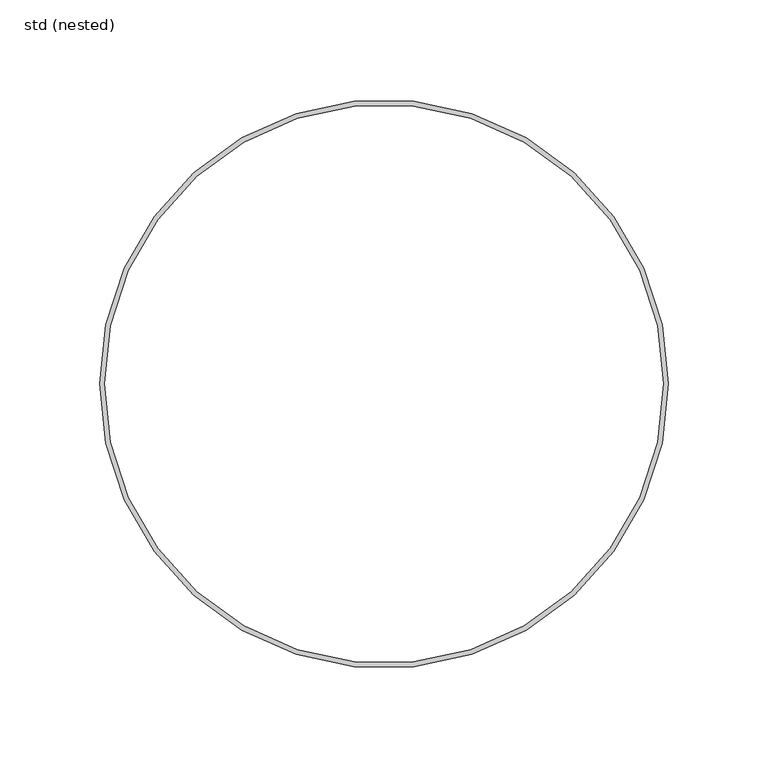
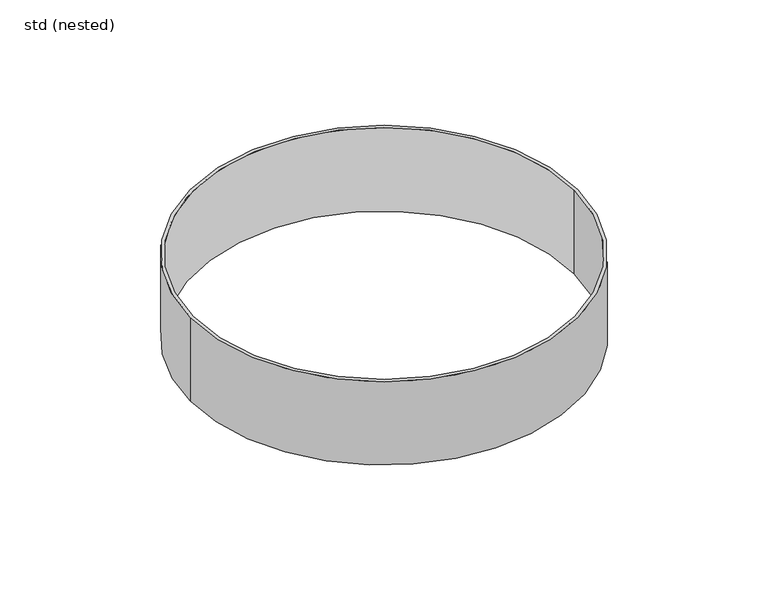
"""IFC4 building model written with IfcOpenShell, lengths in millimetres: sanitary terminal geometry, ZZZ_do not use_PF_ST_WPB_levelling height for Passavant Jet_ACO : std (nested)."""

from ifc_helpers import new_model, si_unit, point, origin, origin_with_axes, origin_2d, place, context, project, spatial, circle_curve, trimmed, segment, composite_curve, outline, extrude, source, transform, mapped, element, save


def std_nested_134ac697(model_context):
    return source(origin(), model_context, "Body", "SweptSolid", [
        extrude(outline(composite_curve([segment(trimmed(circle_curve(origin_2d(), 142.5), [point((-142.5, 0.0))], [point((142.5, 0.0))], False, "CARTESIAN"), True, "CONTINUOUS"), segment(trimmed(circle_curve(origin_2d(), 142.5), [point((142.5, 0.0))], [point((-142.5, 0.0))], False, "CARTESIAN"), True, "CONTINUOUS")], self_intersect=False), holes=[composite_curve([segment(trimmed(circle_curve(origin_2d(), 140.0), [point((-140.0, 0.0))], [point((140.0, 0.0))], True, "CARTESIAN"), True, "CONTINUOUS"), segment(trimmed(circle_curve(origin_2d(), 140.0), [point((140.0, 0.0))], [point((-140.0, 0.0))], True, "CARTESIAN"), True, "CONTINUOUS")], self_intersect=False)]), origin_with_axes(), (0.0, 0.0, 1.0), 65.0),
    ])


if __name__ == "__main__":
    model = new_model("IFC4")
    model_context = context("Model", 3, world=origin())
    ifc_project = project(units=[si_unit("LENGTHUNIT", "METRE", prefix="MILLI")], contexts=[model_context])
    site = spatial("IfcSite", under=ifc_project)
    building = spatial("IfcBuilding", under=site)
    placement = place(None, origin())
    std_nested_shape = std_nested_134ac697(model_context)
    element("IfcSanitaryTerminal", 1, ObjectType="ZZZ_do not use_PF_ST_WPB_levelling height for Passavant Jet_ACO : std (nested)", at=placement, inside=building, context=model_context, shape_type="MappedRepresentation", body=[
        mapped(std_nested_shape, transform((0.0, 0.0, 0.0), x_axis=(1.0, 0.0, 0.0), y_axis=(0.0, 1.0, 0.0), z_axis=(0.0, 0.0, 1.0))),
    ])
    save(model, "model.ifc")
